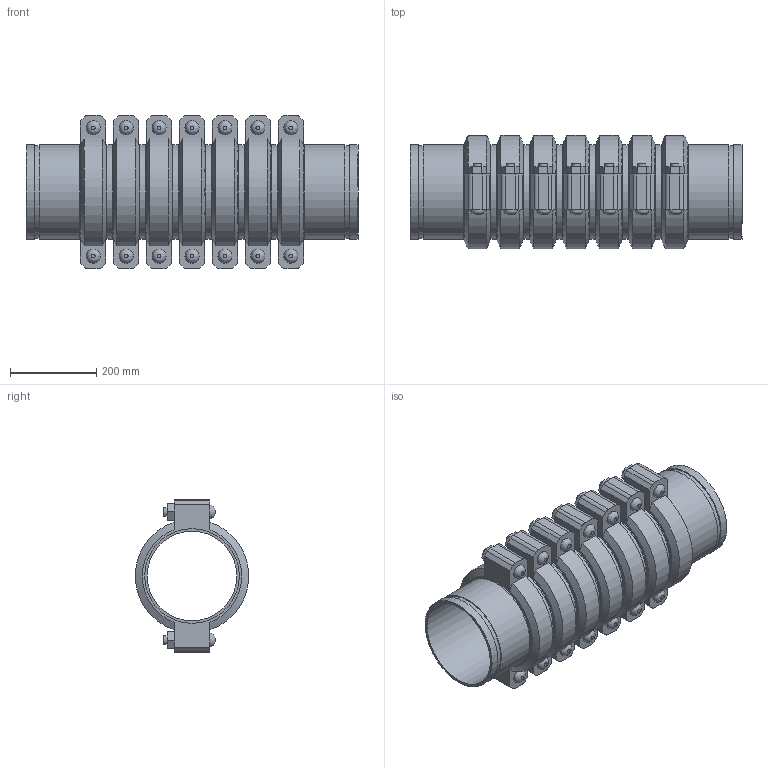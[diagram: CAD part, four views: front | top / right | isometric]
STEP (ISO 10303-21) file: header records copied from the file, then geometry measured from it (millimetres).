
FILE_DESCRIPTION(/* description */ ('VIC EXPANSION JOINT 7 COUPLINGS EXPANDED STYLE 155 (OGS)','CAx-IF Rec.Pracs.---Representation and Presentation of Product Manufacturing Information (PMI)---4.0---2014-10-13'),/* implementation_level */ '2;1');
FILE_NAME(/* name */ 'C:\Users\kkamble\AppData\Roaming\Autodesk\ApplicationPlugins\Victaulic.Temp\A179\Victaulic_IPS_Expansion Joint_Expanded_7 Couplings_Style 155 (OGS)_8 (200).stp',/* time_stamp */ '2021-06-27T00:07:23+02:00',/* author */ ('kkamble'),/* organization */ ('Victaulic'),/* preprocessor_version */ 'ST-DEVELOPER v17.2',/* originating_system */ 'Autodesk Inventor 2019',/* authorisation */ '');
FILE_SCHEMA (('AP242_MANAGED_MODEL_BASED_3D_ENGINEERING_MIM_LF { 1 0 10303 442 1 1 4 }'));
Length unit declared in the file: inch
Products named in the file (4): 155-08.0; Nipple-08.0; Nipple-08.0_1; 075-08.0
Assembly tree (15 placements, depth 2):
  155-08.0
    Nipple-08.0  x2
    Nipple-08.0_1  x6
    075-08.0  x7
Bounding box: 768.35 x 261.72 x 354.84 mm (x, y, z)
Volume: 12453954.5 mm3; surface area: 2310218.8 mm2
Topology: 15 solids, 29 shells, 495 faces, 1171 edges, 822 vertices
Faces by surface type: plane 300, cylinder 153, cone 28, bspline 14
Full cylindrical faces by diameter (mm): 19.05 x28, 21.209 x14, 206.985 x8, 212.725 x7, 214.401 x16, 219.075 x38
Entity records: 2833 total; most frequent: CARTESIAN_POINT 499, DIRECTION 473, ORIENTED_EDGE 386, EDGE_CURVE 193, AXIS2_PLACEMENT_3D 190, VERTEX_POINT 138, EDGE_LOOP 107, LINE 93
